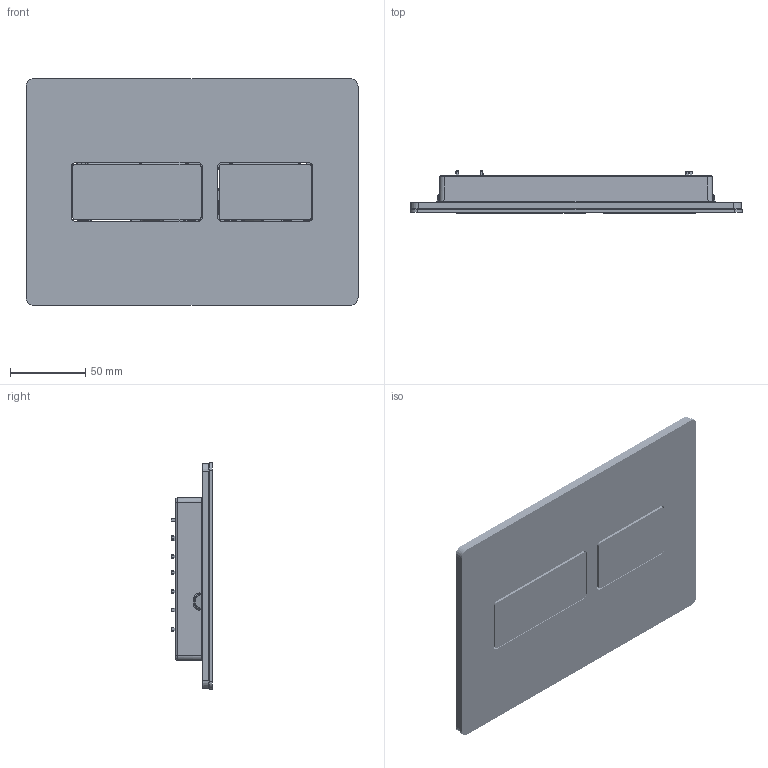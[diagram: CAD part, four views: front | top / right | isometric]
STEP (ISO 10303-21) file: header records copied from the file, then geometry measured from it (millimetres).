
FILE_DESCRIPTION((''),'2;1');
FILE_NAME('SP859_020_00_ASM','2019-05-02T',('mschlueter'),('NET'),'CREO PARAMETRIC BY PTC INC, 2017170','CREO PARAMETRIC BY PTC INC, 2017170','');
FILE_SCHEMA(('CONFIG_CONTROL_DESIGN'));
Products named in the file (14): SP850_020_00; SP850_026_00; SP850_024_00; SP850_024_01; SP850_028_00; SP850_027_00; SP850_029_00; SP850_025_00; SP850_023_00; NT028_004_00; SP860_016_03; SP850_021_00; SP850_022_00; SP859_020_00_ASM
Assembly tree (22 placements, depth 2):
  SP859_020_00_ASM
    SP850_020_00
    SP850_026_00
    SP850_024_00
    SP850_024_01
    SP850_028_00
    SP850_027_00
    SP850_029_00  x8
    SP850_025_00  x2
    SP850_023_00
    NT028_004_00  x2
    SP860_016_03
    SP850_021_00
    SP850_022_00
Bounding box: 220 x 27.8 x 150 mm (x, y, z)
Volume: 230148.2 mm3; surface area: 283260.7 mm2
Topology: 34 solids, 34 shells, 7463 faces, 19211 edges, 11939 vertices
Faces by surface type: plane 3847, cylinder 1931, bspline 1266, torus 178, cone 133, sphere 92, extrusion 16
Entity records: 338505 total; most frequent: CARTESIAN_POINT 112658, ORIENTED_EDGE 38102, DIRECTION 29946, EDGE_CURVE 19051, PRESENTATION_STYLE_ASSIGNMENT 19021, STYLED_ITEM 19021, CURVE_STYLE 18997, VECTOR 12564
